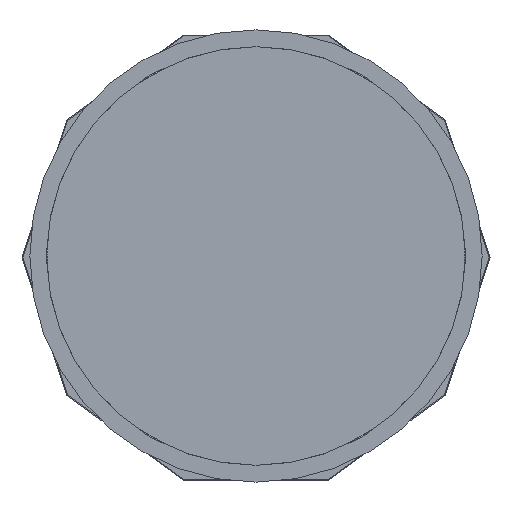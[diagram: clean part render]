
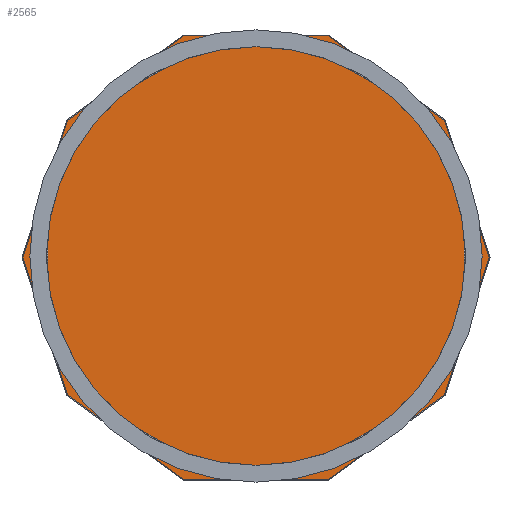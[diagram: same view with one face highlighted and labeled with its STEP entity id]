
A CAD part, front view. The second image highlights one B-rep face of the part: STEP entity #2565.
In plain terms, the highlighted planar face has unit normal (0, -1, 0).
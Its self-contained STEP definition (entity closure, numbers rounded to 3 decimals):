
#2011=DIRECTION('',(-0.809,0.,-0.588));
#2012=VECTOR('',#2011,342.465);
#2013=CARTESIAN_POINT('',(-171.233,52.,523.));
#2014=LINE('',#2013,#2012);
#2019=DIRECTION('',(0.309,0.,-0.951));
#2020=VECTOR('',#2019,342.465);
#2021=CARTESIAN_POINT('',(-554.121,52.,-4.));
#2022=LINE('',#2021,#2020);
#2027=DIRECTION('',(0.809,0.,-0.588));
#2028=VECTOR('',#2027,342.465);
#2029=CARTESIAN_POINT('',(-448.293,52.,-329.704));
#2030=LINE('',#2029,#2028);
#2035=DIRECTION('',(1.,0.,0.));
#2036=VECTOR('',#2035,342.465);
#2037=CARTESIAN_POINT('',(-171.233,52.,-531.));
#2038=LINE('',#2037,#2036);
#2043=DIRECTION('',(0.809,0.,0.588));
#2044=VECTOR('',#2043,342.465);
#2045=CARTESIAN_POINT('',(171.233,52.,-531.));
#2046=LINE('',#2045,#2044);
#2051=DIRECTION('',(0.309,0.,0.951));
#2052=VECTOR('',#2051,342.465);
#2053=CARTESIAN_POINT('',(448.293,52.,-329.704));
#2054=LINE('',#2053,#2052);
#2059=DIRECTION('',(-0.309,0.,0.951));
#2060=VECTOR('',#2059,342.465);
#2061=CARTESIAN_POINT('',(554.121,52.,-4.));
#2062=LINE('',#2061,#2060);
#2067=DIRECTION('',(-0.809,0.,0.588));
#2068=VECTOR('',#2067,342.465);
#2069=CARTESIAN_POINT('',(448.293,52.,321.704));
#2070=LINE('',#2069,#2068);
#2075=DIRECTION('',(-1.,0.,0.));
#2076=VECTOR('',#2075,342.465);
#2077=CARTESIAN_POINT('',(171.233,52.,523.));
#2078=LINE('',#2077,#2076);
#2395=DIRECTION('',(-0.309,0.,-0.951));
#2396=VECTOR('',#2395,342.465);
#2397=CARTESIAN_POINT('',(-448.293,52.,321.704));
#2398=LINE('',#2397,#2396);
#2463=CARTESIAN_POINT('',(-554.121,52.,-4.));
#2464=CARTESIAN_POINT('',(-448.293,52.,-329.704));
#2465=VERTEX_POINT('',#2463);
#2466=VERTEX_POINT('',#2464);
#2467=CARTESIAN_POINT('',(-171.233,52.,-531.));
#2468=VERTEX_POINT('',#2467);
#2469=CARTESIAN_POINT('',(171.233,52.,-531.));
#2470=VERTEX_POINT('',#2469);
#2471=CARTESIAN_POINT('',(448.293,52.,-329.704));
#2472=VERTEX_POINT('',#2471);
#2473=CARTESIAN_POINT('',(554.121,52.,-4.));
#2474=VERTEX_POINT('',#2473);
#2475=CARTESIAN_POINT('',(448.293,52.,321.704));
#2476=VERTEX_POINT('',#2475);
#2477=CARTESIAN_POINT('',(171.233,52.,523.));
#2478=VERTEX_POINT('',#2477);
#2479=CARTESIAN_POINT('',(-171.233,52.,523.));
#2480=VERTEX_POINT('',#2479);
#2481=CARTESIAN_POINT('',(-448.293,52.,321.704));
#2482=VERTEX_POINT('',#2481);
#2539=CARTESIAN_POINT('',(0.,52.,0.));
#2540=DIRECTION('',(0.,1.,0.));
#2541=DIRECTION('',(1.,0.,0.));
#2542=AXIS2_PLACEMENT_3D('',#2539,#2540,#2541);
#2543=PLANE('',#2542);
#2545=ORIENTED_EDGE('',*,*,#2544,.F.);
#2547=ORIENTED_EDGE('',*,*,#2546,.F.);
#2548=ORIENTED_EDGE('',*,*,#2528,.F.);
#2550=ORIENTED_EDGE('',*,*,#2549,.F.);
#2552=ORIENTED_EDGE('',*,*,#2551,.F.);
#2554=ORIENTED_EDGE('',*,*,#2553,.F.);
#2556=ORIENTED_EDGE('',*,*,#2555,.F.);
#2558=ORIENTED_EDGE('',*,*,#2557,.F.);
#2560=ORIENTED_EDGE('',*,*,#2559,.F.);
#2562=ORIENTED_EDGE('',*,*,#2561,.F.);
#2563=EDGE_LOOP('',(#2545,#2547,#2548,#2550,#2552,#2554,#2556,#2558,#2560,
#2562));
#2564=FACE_OUTER_BOUND('',#2563,.F.);
#2528=EDGE_CURVE('',#2480,#2482,#2014,.T.);
#2544=EDGE_CURVE('',#2465,#2466,#2022,.T.);
#2546=EDGE_CURVE('',#2482,#2465,#2398,.T.);
#2549=EDGE_CURVE('',#2478,#2480,#2078,.T.);
#2551=EDGE_CURVE('',#2476,#2478,#2070,.T.);
#2553=EDGE_CURVE('',#2474,#2476,#2062,.T.);
#2555=EDGE_CURVE('',#2472,#2474,#2054,.T.);
#2557=EDGE_CURVE('',#2470,#2472,#2046,.T.);
#2559=EDGE_CURVE('',#2468,#2470,#2038,.T.);
#2561=EDGE_CURVE('',#2466,#2468,#2030,.T.);
#2565=ADVANCED_FACE('',(#2564),#2543,.F.);
